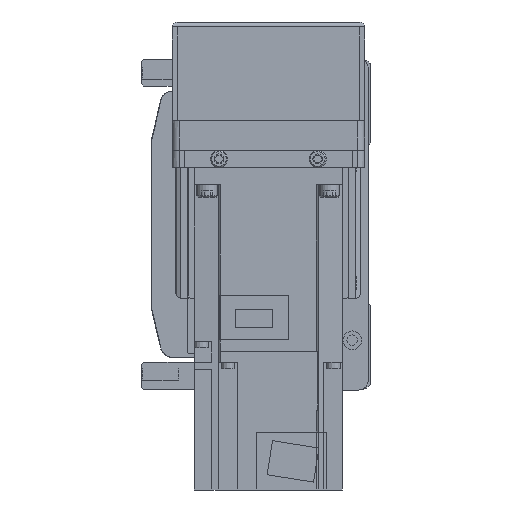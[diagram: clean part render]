
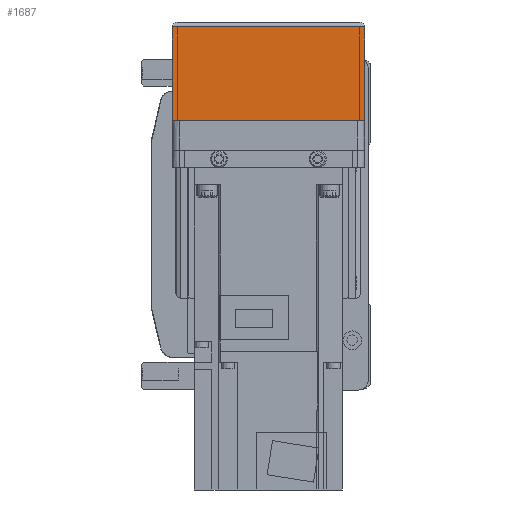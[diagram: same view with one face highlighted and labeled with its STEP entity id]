
A CAD part, left-side view. The second image highlights one B-rep face of the part: STEP entity #1687.
In plain terms, the highlighted planar face has unit normal (-1, 0, 0).
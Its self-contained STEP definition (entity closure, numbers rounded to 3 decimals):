
#1687 = ADVANCED_FACE( '', ( #4299 ), #4300, .F. );
#4299 = FACE_OUTER_BOUND( '', #8175, .T. );
#4300 = PLANE( '', #8176 );
#8175 = EDGE_LOOP( '', ( #13001, #13002, #13003, #13004 ) );
#8176 = AXIS2_PLACEMENT_3D( '', #13005, #13006, #13007 );
#13001 = ORIENTED_EDGE( '', *, *, #22460, .F. );
#13002 = ORIENTED_EDGE( '', *, *, #22386, .F. );
#13003 = ORIENTED_EDGE( '', *, *, #22461, .T. );
#13004 = ORIENTED_EDGE( '', *, *, #22462, .F. );
#13005 = CARTESIAN_POINT( '', ( -158., 36., 7. ) );
#13006 = DIRECTION( '', ( 1., 0., 0. ) );
#13007 = DIRECTION( '', ( 0., 0., -1. ) );
#22386 = EDGE_CURVE( '', #26949, #26669, #26951, .T. );
#22460 = EDGE_CURVE( '', #26669, #27069, #27070, .T. );
#22461 = EDGE_CURVE( '', #26949, #27071, #27072, .T. );
#22462 = EDGE_CURVE( '', #27069, #27071, #27073, .T. );
#26669 = VERTEX_POINT( '', #33206 );
#26949 = VERTEX_POINT( '', #33636 );
#26951 = LINE( '', #33639, #33640 );
#27069 = VERTEX_POINT( '', #33823 );
#27070 = LINE( '', #33824, #33825 );
#27071 = VERTEX_POINT( '', #33826 );
#27072 = LINE( '', #33827, #33828 );
#27073 = LINE( '', #33829, #33830 );
#33206 = CARTESIAN_POINT( '', ( -158., 39., -12.1 ) );
#33636 = CARTESIAN_POINT( '', ( -158., 39., -50. ) );
#33639 = CARTESIAN_POINT( '', ( -158., 39., -50. ) );
#33640 = VECTOR( '', #41640, 1000. );
#33823 = CARTESIAN_POINT( '', ( -158., -39., -12.1 ) );
#33824 = CARTESIAN_POINT( '', ( -158., 50., -12.1 ) );
#33825 = VECTOR( '', #41712, 1000. );
#33826 = CARTESIAN_POINT( '', ( -158., -39., -50. ) );
#33827 = CARTESIAN_POINT( '', ( -158., 40., -50. ) );
#33828 = VECTOR( '', #41713, 1000. );
#33829 = CARTESIAN_POINT( '', ( -158., -39., -12.1 ) );
#33830 = VECTOR( '', #41714, 1000. );
#41640 = DIRECTION( '', ( 0., 0., 1. ) );
#41712 = DIRECTION( '', ( 0., -1., 0. ) );
#41713 = DIRECTION( '', ( 0., -1., 0. ) );
#41714 = DIRECTION( '', ( 0., 0., -1. ) );
